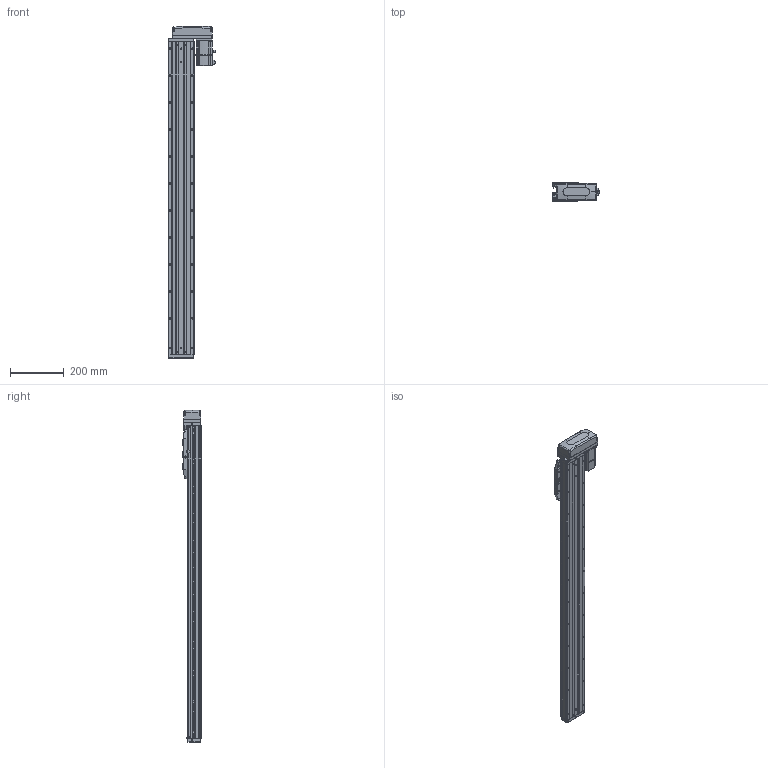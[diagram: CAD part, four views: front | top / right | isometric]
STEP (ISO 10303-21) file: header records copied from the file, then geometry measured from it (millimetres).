
FILE_DESCRIPTION (( 'STEP AP203' ), '1' );
FILE_NAME ('CTHA100-950-BL-M20-C4L.step', '2022-07-06T08:59:14', ( '微软用户' ), ( '微软中国' ), 'SwSTEP 2.0', 'SolidWorks 2020', '' );
FILE_SCHEMA (( 'CONFIG_CONTROL_DESIGN' ));
Length unit declared in the file: millimetre
Products named in the file (19): KTHA100-004; GBT 70.1-M3℅6; GBT 70.3-M3℅6; KTHA100-005; GBT70.1 M5℅16; CTHA86-015-1_CTHA86-015-2; GB¨uT 70.2-M3¡Á5_M3¡Á6; CTHA60-016; CTHA86-033; EE_SX911P_R; _X2_4E0983F1_X0_200W_1; CTHA100-950-BL-M20-C4L; CTHA60-017; CTHA100-002; CTHA60-021; CTHA100-031; KTHA100-001_1160; GBT77-2000 M3×3; CTHA86-030
Assembly tree (64 placements, depth 2):
  CTHA100-950-BL-M20-C4L
    KTHA100-001_1160
    KTHA100-004
    KTHA100-005
    GB¨uT 70.2-M3¡Á5_M3¡Á6  x10
    EE_SX911P_R  x3
    CTHA60-017  x3
    CTHA60-021  x2
    GBT77-2000 M3×3  x6
    GBT 70.1-M3℅6  x10
    GBT70.1 M5℅16  x14
    CTHA60-016  x2
    _X2_4E0983F1_X0_200W_1
    CTHA100-002
    CTHA100-031
    CTHA86-030  x2
    GBT 70.3-M3℅6  x4
    CTHA86-015-1_CTHA86-015-2
    CTHA86-033
Bounding box: 177.7 x 68 x 1231 mm (x, y, z)
Volume: 4914914.5 mm3; surface area: 813227.7 mm2
Topology: 66 solids, 66 shells, 2749 faces, 6639 edges, 4120 vertices
Faces by surface type: plane 1440, cylinder 725, cone 361, torus 124, bspline 75, sphere 24
Entity records: 48576 total; most frequent: CARTESIAN_POINT 9483, DIRECTION 7534, ORIENTED_EDGE 7394, EDGE_CURVE 3697, AXIS2_PLACEMENT_3D 2543, VECTOR 2448, LINE 2448, VERTEX_POINT 2340
